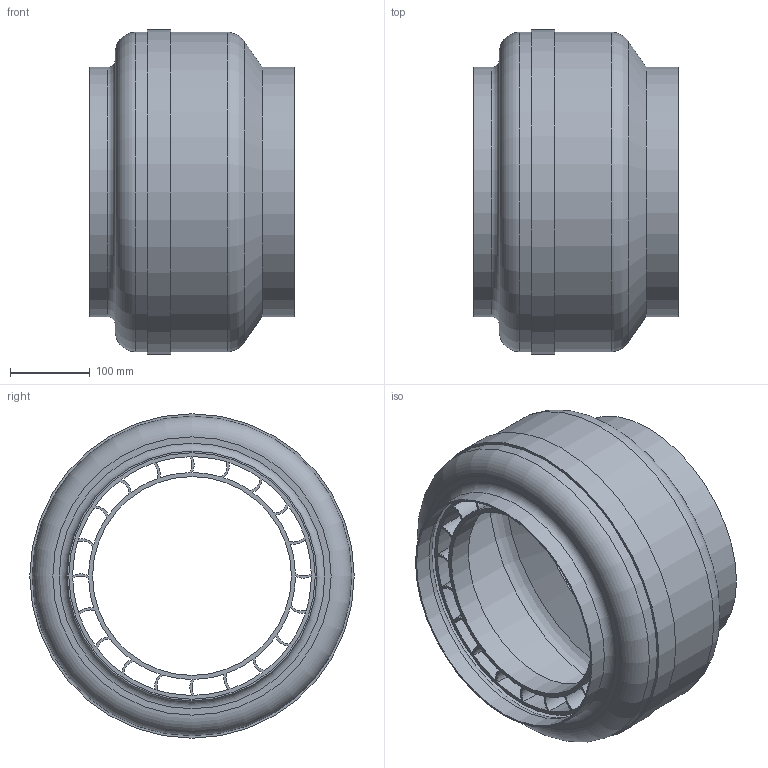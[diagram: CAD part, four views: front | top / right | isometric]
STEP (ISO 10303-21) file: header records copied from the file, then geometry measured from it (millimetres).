
FILE_DESCRIPTION(/* description */ (''),/* implementation_level */ '2;1');
FILE_NAME(/* name */ 'Z:\Output\RR 315-05920-025.stp',/* time_stamp */ '2017-05-05T16:58:58+02:00',/* author */ ('Engineering1'),/* organization */ (''),/* preprocessor_version */ 'ST-DEVELOPER v16.5',/* originating_system */ 'Autodesk Inventor 2017',/* authorisation */ '');
FILE_SCHEMA (('AUTOMOTIVE_DESIGN { 1 0 10303 214 3 1 1 }'));
Length unit declared in the file: millimetre
Products named in the file (1): RR-1
Bounding box: 257 x 408 x 408 mm (x, y, z)
Volume: 1120852.9 mm3; surface area: 863306.1 mm2
Topology: 2 solids, 2 shells, 106 faces, 286 edges, 188 vertices
Faces by surface type: cylinder 90, plane 8, torus 6, cone 2
Full cylindrical faces by diameter (mm): 250 x1, 310 x3, 314 x2, 398 x1, 402 x2, 408 x1
Entity records: 3441 total; most frequent: DIRECTION 666, CARTESIAN_POINT 559, ORIENTED_EDGE 532, AXIS2_PLACEMENT_3D 293, EDGE_CURVE 266, CIRCLE 186, VERTEX_POINT 186, EDGE_LOOP 172
